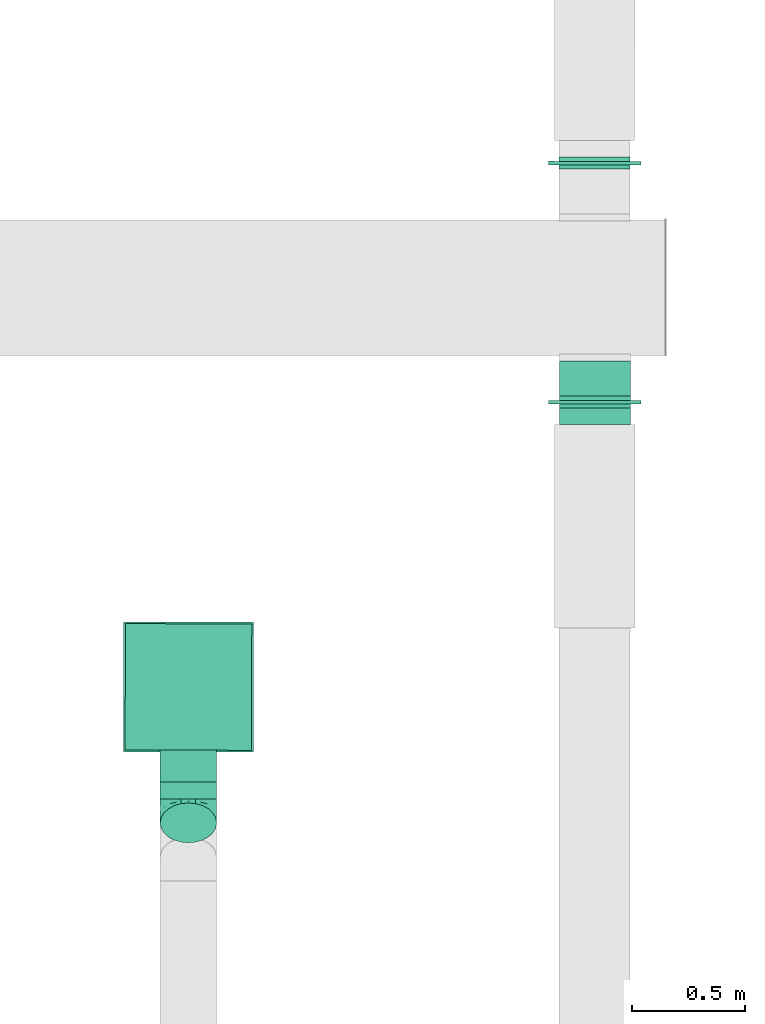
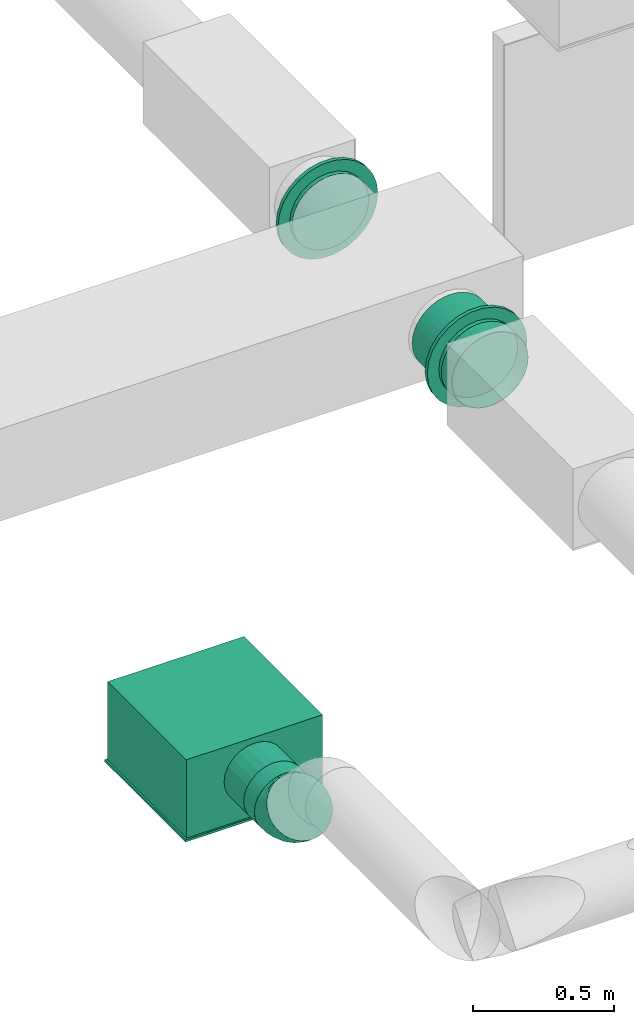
# One storey, part 30 of 63: 3 flow segments, 2 flow controllers, 1 flow fitting, 1 flow terminal.
"""IFC2X3 building model written with IfcOpenShell, lengths in millimetres."""

from ifc_helpers import new_model, entity, si_unit, converted_unit, derived_unit, direction, frame, origin_with_axes, origin_2d_with_axis, place, context, subcontext, project, spatial, hollow_circle, extrude, open_shell, surface_model, source, transform, mapped, type_object, element, save


model = new_model("IFC2X3")

# Units and contexts
model_context = context("Model", 3, precision=0.01, world=frame((0.0, 4.29681676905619e-09, 0.0)), true_north=direction((4.01073788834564e-13, 1.0)))
plan_context = context("Plan", 3, precision=0.01, world=frame((0.0, 4.29681676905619e-09, 0.0)), true_north=direction((4.01073788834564e-13, 1.0)))
body_context = subcontext(model_context, "Body", "Model", "MODEL_VIEW")
ifc_project = project(units=[converted_unit("PLANEANGLEUNIT", "DEGREE", entity("IfcPositiveLengthMeasure", 0.0174532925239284), si_unit("PLANEANGLEUNIT", "RADIAN"), dimensions=[0, 0, 0, 0, 0, 0, 0]), si_unit("AREAUNIT", "SQUARE_METRE"), si_unit("LENGTHUNIT", "METRE", prefix="MILLI"), si_unit("MASSUNIT", "GRAM", prefix="KILO"), si_unit("POWERUNIT", "WATT"), si_unit("PRESSUREUNIT", "PASCAL"), si_unit("FORCEUNIT", "NEWTON", prefix="KILO"), si_unit("ELECTRICVOLTAGEUNIT", "VOLT"), si_unit("ELECTRICCURRENTUNIT", "AMPERE"), si_unit("THERMODYNAMICTEMPERATUREUNIT", "DEGREE_CELSIUS"), si_unit("TIMEUNIT", "SECOND"), si_unit("VOLUMEUNIT", "CUBIC_METRE"), derived_unit("LINEARVELOCITYUNIT", [(si_unit("LENGTHUNIT", "METRE"), 1), (si_unit("TIMEUNIT", "SECOND"), -1)]), derived_unit("VOLUMETRICFLOWRATEUNIT", [(si_unit("VOLUMEUNIT", "CUBIC_METRE"), 1), (si_unit("TIMEUNIT", "SECOND"), -1)]), derived_unit("THERMALTRANSMITTANCEUNIT", [(si_unit("POWERUNIT", "WATT"), 1), (si_unit("THERMODYNAMICTEMPERATUREUNIT", "KELVIN"), -1), (si_unit("AREAUNIT", "SQUARE_METRE"), -1)]), derived_unit("SOUNDPRESSUREUNIT", [(si_unit("PRESSUREUNIT", "PASCAL"), 1)])], contexts=[model_context, plan_context])

# Site, building, storey
site_placement = place(None, frame((0.0, -4.29681676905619e-09, 0.0), z_axis=(0.0, 0.0, 1.0), x_axis=(1.0, 0.0, 0.0)))
site = spatial("IfcSite", under=ifc_project, at=site_placement, CompositionType="ELEMENT")
building_placement = place(site_placement, frame((0.0, 4.29681676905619e-09, 0.0), z_axis=(0.0, 0.0, 1.0), x_axis=(1.0, 0.0, 0.0)))
building = spatial("IfcBuilding", under=site, at=building_placement, Name="mc-building", CompositionType="ELEMENT")
storey_placement = place(building_placement, frame((0.0, 0.0, 210900.0), z_axis=(0.0, 0.0, 1.0), x_axis=(1.0, 0.0, 0.0)))
storey = spatial("IfcBuildingStorey", under=building, at=storey_placement, Name="Nivå F", CompositionType="ELEMENT", Elevation=210900.0)

# Flow controllers
damper_type = type_object("IfcDamperType", Name="IRIS-031", PredefinedType="BALANCINGDAMPER")
shared_shape_1 = source(origin_with_axes(), body_context, "Body", "SurfaceModel", [
    surface_model("IfcShellBasedSurfaceModel", [(26.0, 78.75, -136.39901), (26.0, 0.0, -157.5), (26.0, 40.764, -152.13332), (26.0, 111.36932, -111.36932), (26.0, -111.36932, -111.36932), (26.0, 152.13332, 40.764), (26.0, 152.13332, -40.764), (26.0, 136.39901, -78.75), (26.0, -78.75, -136.39901), (26.0, -40.764, -152.13332), (26.0, -152.13332, -40.764), (26.0, -136.39901, -78.75), (26.0, 0.0, 157.5), (26.0, 157.5, 0.0), (26.0, 136.39901, 78.75), (26.0, 111.36932, 111.36932), (26.0, 78.75, 136.39901), (26.0, 40.764, 152.13332), (26.0, -40.764, 152.13332), (26.0, -152.13332, 40.764), (26.0, -136.39901, 78.75), (26.0, -157.5, 0.0), (26.0, -78.75, 136.39901), (26.0, -111.36932, 111.36932), (7.8, 0.0, 157.5), (7.8, 40.764, 152.13332), (7.8, 78.75, 136.39901), (7.8, 152.13332, 40.764), (7.8, 111.36932, 111.36932), (7.8, 136.39901, 78.75), (7.8, -152.13332, 40.764), (7.8, -78.75, 136.39901), (7.8, -136.39901, 78.75), (7.8, -111.36932, 111.36932), (7.8, -40.764, 152.13332), (7.8, -111.36932, -111.36932), (7.8, -157.5, 0.0), (7.8, 152.13332, -40.764), (7.8, 111.36932, -111.36932), (7.8, 136.39901, -78.75), (7.8, -78.75, -136.39901), (7.8, 78.75, -136.39901), (7.8, 0.0, -157.5), (7.8, 40.764, -152.13332), (7.8, -136.39901, -78.75), (7.8, -152.13332, -40.764), (7.8, -40.764, -152.13332), (7.8, 157.5, 0.0), (7.8, 116.45328, -168.71169), (7.8, -24.71002, -203.50531), (7.8, 72.694, -191.67833), (7.8, 181.51848, -95.26825), (7.8, 153.4447, -135.94015), (7.8, 199.04307, -49.05971), (7.8, 205.0, 0.0), (7.8, 199.04307, 49.05971), (7.8, -116.45328, 168.71169), (7.8, -181.51848, -95.26825), (7.8, -116.45328, -168.71169), (7.8, -72.694, -191.67833), (7.8, 24.71002, -203.50531), (7.8, -153.4447, -135.94015), (7.8, -205.0, 0.0), (7.8, -199.04307, -49.05971), (7.8, 181.51848, 95.26825), (7.8, 153.4447, 135.94015), (7.8, 116.45328, 168.71169), (7.8, 72.694, 191.67833), (7.8, 24.71002, 203.50531), (7.8, -24.71002, 203.50531), (7.8, -181.51848, 95.26825), (7.8, -199.04307, 49.05971), (7.8, -153.4447, 135.94015), (7.8, -72.694, 191.67833), (-7.8, 24.71002, 203.50531), (-7.8, 72.694, 191.67833), (-7.8, 116.45328, 168.71169), (-7.8, -24.71002, 203.50531), (-7.8, 153.4447, 135.94015), (-7.8, 181.51848, 95.26825), (-7.8, 199.04307, 49.05971), (-7.8, -116.45328, 168.71169), (-7.8, -72.694, 191.67833), (-7.8, -181.51848, 95.26825), (-7.8, -153.4447, 135.94015), (-7.8, -205.0, 0.0), (-7.8, -199.04307, 49.05971), (-7.8, 205.0, 0.0), (-7.8, 199.04307, -49.05971), (-7.8, 181.51848, -95.26825), (-7.8, 116.45328, -168.71169), (-7.8, -116.45328, -168.71169), (-7.8, 153.4447, -135.94015), (-7.8, -24.71002, -203.50531), (-7.8, 72.694, -191.67833), (-7.8, -181.51848, -95.26825), (-7.8, -153.4447, -135.94015), (-7.8, -199.04307, -49.05971), (-7.8, -72.694, -191.67833), (-7.8, 24.71002, -203.50531), (-7.8, 78.75, -136.39901), (-7.8, 0.0, -157.5), (-7.8, 40.764, -152.13332), (-7.8, 111.36932, -111.36932), (-7.8, -111.36932, -111.36932), (-7.8, 152.13332, 40.764), (-7.8, 152.13332, -40.764), (-7.8, 136.39901, -78.75), (-7.8, -78.75, -136.39901), (-7.8, -40.764, -152.13332), (-7.8, -152.13332, -40.764), (-7.8, -136.39901, -78.75), (-7.8, 0.0, 157.5), (-7.8, 157.5, 0.0), (-7.8, 136.39901, 78.75), (-7.8, 111.36932, 111.36932), (-7.8, 78.75, 136.39901), (-7.8, 40.764, 152.13332), (-7.8, -40.764, 152.13332), (-7.8, -152.13332, 40.764), (-7.8, -136.39901, 78.75), (-7.8, -157.5, 0.0), (-7.8, -78.75, 136.39901), (-7.8, -111.36932, 111.36932), (-26.0, 0.0, 157.5), (-26.0, 40.764, 152.13332), (-26.0, 78.75, 136.39901), (-26.0, 152.13332, 40.764), (-26.0, 111.36932, 111.36932), (-26.0, 136.39901, 78.75), (-26.0, -152.13332, 40.764), (-26.0, -78.75, 136.39901), (-26.0, -136.39901, 78.75), (-26.0, -111.36932, 111.36932), (-26.0, -40.764, 152.13332), (-26.0, -111.36932, -111.36932), (-26.0, -157.5, 0.0), (-26.0, 152.13332, -40.764), (-26.0, 111.36932, -111.36932), (-26.0, 136.39901, -78.75), (-26.0, -78.75, -136.39901), (-26.0, 78.75, -136.39901), (-26.0, 0.0, -157.5), (-26.0, 40.764, -152.13332), (-26.0, -136.39901, -78.75), (-26.0, -152.13332, -40.764), (-26.0, -40.764, -152.13332), (-26.0, 157.5, 0.0)], [open_shell([[[0, 1, 2]], [[3, 4, 0]], [[5, 4, 3]], [[6, 3, 7]], [[5, 3, 6]], [[1, 8, 9]], [[1, 0, 8]], [[4, 10, 11]], [[8, 0, 4]], [[4, 12, 10]], [[6, 13, 5]], [[5, 14, 15]], [[5, 15, 16]], [[16, 17, 12]], [[16, 12, 5]], [[12, 18, 10]], [[19, 18, 20]], [[19, 21, 10]], [[20, 22, 23]], [[22, 20, 18]], [[18, 19, 10]], [[4, 5, 12]], [[24, 25, 26]], [[24, 26, 27]], [[28, 29, 27]], [[28, 27, 26]], [[24, 27, 30]], [[31, 32, 33]], [[32, 31, 34]], [[34, 30, 32]], [[34, 24, 30]], [[30, 35, 36]], [[30, 27, 35]], [[27, 37, 35]], [[38, 37, 39]], [[40, 38, 41]], [[37, 38, 40]], [[42, 41, 43]], [[36, 44, 45]], [[35, 44, 36]], [[40, 42, 46]], [[40, 35, 37]], [[42, 40, 41]], [[37, 27, 47]], [[45, 10, 36]], [[44, 11, 45]], [[8, 35, 40]], [[44, 35, 4]], [[9, 40, 46]], [[45, 11, 10]], [[10, 21, 36]], [[9, 8, 40]], [[4, 35, 8]], [[4, 11, 44]], [[1, 9, 46]], [[46, 42, 1]], [[43, 2, 42]], [[41, 0, 43]], [[7, 38, 39]], [[41, 38, 3]], [[6, 39, 37]], [[41, 3, 0]], [[0, 2, 43]], [[13, 6, 37]], [[7, 39, 6]], [[7, 3, 38]], [[47, 13, 37]], [[42, 2, 1]], [[27, 5, 47]], [[29, 14, 27]], [[16, 28, 26]], [[29, 28, 15]], [[17, 26, 25]], [[27, 14, 5]], [[5, 13, 47]], [[17, 16, 26]], [[15, 28, 16]], [[15, 14, 29]], [[12, 17, 25]], [[25, 24, 12]], [[18, 24, 34]], [[20, 32, 30]], [[32, 23, 33]], [[19, 30, 36]], [[34, 22, 18]], [[22, 34, 31]], [[22, 31, 23]], [[31, 33, 23]], [[32, 20, 23]], [[19, 20, 30]], [[36, 21, 19]], [[24, 18, 12]], [[48, 49, 50]], [[51, 48, 52]], [[51, 53, 54]], [[48, 51, 55]], [[56, 57, 48]], [[49, 58, 59]], [[49, 60, 50]], [[61, 58, 57]], [[58, 49, 48]], [[58, 48, 57]], [[57, 62, 63]], [[54, 55, 51]], [[55, 64, 65]], [[55, 65, 66]], [[66, 67, 68]], [[55, 66, 56]], [[69, 66, 68]], [[62, 70, 71]], [[70, 62, 72]], [[73, 56, 66]], [[72, 62, 56]], [[57, 56, 62]], [[69, 73, 66]], [[56, 48, 55]], [[74, 75, 76]], [[77, 74, 76]], [[78, 79, 80]], [[78, 80, 76]], [[81, 76, 80]], [[76, 82, 77]], [[76, 81, 82]], [[83, 84, 85]], [[85, 86, 83]], [[84, 81, 85]], [[80, 85, 81]], [[80, 87, 85]], [[87, 88, 89]], [[87, 89, 90]], [[87, 90, 91]], [[90, 89, 92]], [[93, 90, 94]], [[95, 91, 96]], [[97, 85, 95]], [[91, 95, 87]], [[98, 91, 93]], [[90, 93, 91]], [[99, 93, 94]], [[95, 85, 87]], [[97, 63, 85]], [[95, 57, 97]], [[58, 96, 91]], [[91, 98, 59]], [[95, 96, 61]], [[93, 49, 98]], [[97, 57, 63]], [[63, 62, 85]], [[59, 58, 91]], [[61, 96, 58]], [[61, 57, 95]], [[49, 59, 98]], [[93, 60, 49]], [[94, 50, 99]], [[90, 48, 94]], [[89, 88, 51]], [[90, 92, 52]], [[88, 87, 53]], [[92, 89, 52]], [[94, 48, 50]], [[50, 60, 99]], [[51, 52, 89]], [[53, 51, 88]], [[87, 54, 53]], [[52, 48, 90]], [[99, 60, 93]], [[80, 55, 87]], [[79, 64, 80]], [[66, 78, 76]], [[76, 75, 67]], [[79, 78, 65]], [[74, 68, 75]], [[80, 64, 55]], [[55, 54, 87]], [[67, 66, 76]], [[65, 78, 66]], [[65, 64, 79]], [[68, 67, 75]], [[74, 69, 68]], [[73, 82, 81]], [[77, 82, 69]], [[83, 86, 70]], [[72, 84, 83]], [[56, 81, 84]], [[71, 86, 85]], [[73, 69, 82]], [[73, 81, 56]], [[56, 84, 72]], [[83, 70, 72]], [[71, 70, 86]], [[62, 71, 85]], [[77, 69, 74]], [[100, 101, 102]], [[103, 104, 100]], [[105, 104, 103]], [[106, 103, 107]], [[105, 103, 106]], [[101, 108, 109]], [[101, 100, 108]], [[104, 110, 111]], [[108, 100, 104]], [[104, 112, 110]], [[106, 113, 105]], [[105, 114, 115]], [[105, 115, 116]], [[116, 117, 112]], [[116, 112, 105]], [[112, 118, 110]], [[119, 118, 120]], [[119, 121, 110]], [[120, 122, 123]], [[122, 120, 118]], [[118, 119, 110]], [[104, 105, 112]], [[124, 125, 126]], [[124, 126, 127]], [[128, 129, 127]], [[128, 127, 126]], [[124, 127, 130]], [[131, 132, 133]], [[132, 131, 134]], [[134, 130, 132]], [[134, 124, 130]], [[130, 135, 136]], [[130, 127, 135]], [[127, 137, 135]], [[138, 137, 139]], [[140, 138, 141]], [[137, 138, 140]], [[142, 141, 143]], [[136, 144, 145]], [[135, 144, 136]], [[140, 142, 146]], [[140, 135, 137]], [[142, 140, 141]], [[137, 127, 147]], [[145, 110, 136]], [[144, 111, 145]], [[108, 135, 140]], [[144, 135, 104]], [[109, 140, 146]], [[145, 111, 110]], [[110, 121, 136]], [[109, 108, 140]], [[104, 135, 108]], [[104, 111, 144]], [[101, 109, 146]], [[146, 142, 101]], [[143, 102, 142]], [[141, 100, 143]], [[107, 138, 139]], [[141, 138, 103]], [[106, 139, 137]], [[141, 103, 100]], [[100, 102, 143]], [[113, 106, 137]], [[107, 139, 106]], [[107, 103, 138]], [[147, 113, 137]], [[142, 102, 101]], [[127, 105, 147]], [[129, 114, 127]], [[116, 128, 126]], [[129, 128, 115]], [[117, 126, 125]], [[127, 114, 105]], [[105, 113, 147]], [[117, 116, 126]], [[115, 128, 116]], [[115, 114, 129]], [[112, 117, 125]], [[125, 124, 112]], [[118, 124, 134]], [[120, 132, 130]], [[132, 123, 133]], [[119, 130, 136]], [[134, 122, 118]], [[122, 134, 131]], [[122, 131, 123]], [[131, 133, 123]], [[132, 120, 123]], [[119, 120, 130]], [[136, 121, 119]], [[124, 118, 112]]])]),
])
for number, where, z_axis, x_axis, name in (
    (1, (532305.32839, 455662.25549, 4200.0), (0.0, 0.0, 1.0), (0.000647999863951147, 0.999999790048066, 0.0), "IRIS-031"),
    (2, (532304.16118, 456720.6534, 4200.0), (0.0, 0.0, 1.0), (-0.000647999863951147, -0.999999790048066, 0.0), "IRIS-031"),
):
    element("IfcFlowController", number, at=place(storey_placement, frame(where, z_axis=z_axis, x_axis=x_axis)), inside=storey, type_object=damper_type, Name=name, context=body_context, shape_type="MappedRepresentation", body=[
        mapped(shared_shape_1, transform((0.0, 0.0, 0.0), scale=1.0)),
    ])

# Flow fitting
duct_fitting_type = type_object("IfcDuctFittingType", Name="magicirc_elbow_short_001", PredefinedType="BEND")
shared_shape_2 = source(origin_with_axes(), body_context, "Body", "SurfaceModel", [
    surface_model("IfcShellBasedSurfaceModel", [(-62.13204, 0.0, -125.0), (-62.13204, -32.35238, -120.74073), (-62.13204, 32.35238, -120.74073), (-62.13204, 62.5, -108.25318), (-62.13204, 88.38835, -88.38835), (-62.13204, 108.25318, -62.5), (-62.13204, 120.74073, -32.35238), (-62.13204, -62.5, -108.25318), (-62.13204, -88.38835, -88.38835), (-62.13204, -125.0, 0.0), (-62.13204, -108.25318, -62.5), (-62.13204, -120.74073, -32.35238), (-62.13204, 125.0, 0.0), (-62.13204, -120.74073, 32.35238), (-62.13204, 120.74073, 32.35238), (-62.13204, 108.25318, 62.5), (-62.13204, 32.35238, 120.74073), (-62.13204, 62.5, 108.25318), (-62.13204, 88.38835, 88.38835), (-62.13204, -88.38835, 88.38835), (-62.13204, -108.25318, 62.5), (-62.13204, -32.35238, 120.74073), (-62.13204, 0.0, 125.0), (-62.13204, -62.5, 108.25318), (-32.61257, 120.48054, -62.5), (-41.44261, 129.31057, -32.35238), (-44.45436, 132.32233, 0.0), (-41.44261, 129.31057, 32.35238), (-32.61257, 120.48054, 62.5), (-39.32094, -100.77129, 72.52866), (-25.3983, -115.58366, 40.92131), (-9.38975, -99.61313, 67.6303), (-40.71594, 99.20513, 81.38635), (-18.56602, 106.43398, 88.38835), (6.93461, -16.74165, 121.22697), (-29.92798, -19.88945, 122.8817), (-17.69423, -50.99343, 111.83063), (-28.63512, 12.8945, 124.68547), (-43.55871, 45.16564, 117.17454), (-19.1971, 46.34588, 119.14586), (20.11216, -107.05726, 35.36285), (37.22525, -89.79474, 60.1728), (-42.64489, 65.81413, 107.6176), (18.18237, -43.89615, 109.72868), (-48.14682, 116.23669, 52.46898), (11.13029, 29.36587, 124.68547), (-8.4822, -119.71595, 0.0), (17.31186, -111.89141, 0.0), (-27.44697, 77.92943, 103.54984), (-1.13628, 62.73759, 117.17454), (-0.26019, 88.12816, 108.25318), (29.58221, -71.41779, 87.09722), (2.27359, -83.55864, 84.32151), (46.20365, -49.09439, 98.73245), (43.10591, -104.06687, 0.0), (-28.63512, 12.89449, -124.68547), (-29.92797, -19.88945, -122.8817), (11.13029, 29.36586, -124.68547), (-19.1971, 46.34588, -119.14586), (-43.55871, 45.16564, -117.17454), (-35.69649, 74.51237, -103.54983), (-25.3983, -115.58366, -40.92131), (-48.14682, 116.23669, -52.46898), (-39.32094, -100.77129, -72.52866), (-16.38313, 76.69211, -107.6176), (-18.56602, 106.43398, -88.38835), (-0.26019, 88.12816, -108.25318), (-17.69423, -50.99343, -111.83063), (6.93461, -16.74165, -121.22697), (-1.13628, 62.73759, -117.17454), (48.5695, -23.54609, -111.83063), (35.22623, 7.0983, -122.8817), (-9.38975, -99.61313, -67.63031), (2.04406, -67.38589, -98.73245), (29.58221, -71.41778, -87.09723), (43.93399, 43.934, -125.0), (106.43399, -18.56599, 88.38835), (132.32235, -44.45434, 0.0), (21.05739, 66.81058, -120.74073), (88.12817, -0.26017, 108.25318), (66.81057, 21.05741, -120.74073), (106.43399, -18.56599, -88.38835), (88.12817, -0.26017, -108.25318), (129.31058, -41.44258, -32.35238), (120.48055, -32.61255, -62.5), (21.05739, 66.81058, 120.74073), (43.93399, 43.934, 125.0), (129.31058, -41.44258, 32.35238), (120.48055, -32.61255, 62.5), (66.81057, 21.05741, 120.74073), (-31.08246, -121.94188, 0.0), (35.22622, 7.09831, 122.8817), (-25.98217, -78.69805, 94.74512), (-3.43913, -67.17105, 100.02812), (77.07669, -63.79755, 67.6303), (61.9235, -89.5906, 35.66991), (-52.56496, 126.90301, 0.0), (99.68931, -63.77067, 40.92131), (48.5695, -23.54609, 111.83062), (99.06018, -43.45194, 72.52866), (74.0201, -37.27574, 94.74512), (108.20455, -64.2473, 0.0), (90.64979, -78.65413, 0.0), (66.87785, -91.36049, 0.0), (19.56361, -107.13664, -35.66991), (-41.35812, 98.93914, -81.38635), (-25.98217, -78.69805, -94.74512), (61.47949, -89.92235, -35.36285), (18.18239, -43.89616, -109.72867), (57.47721, -60.69254, -84.32152), (74.02009, -37.27574, -94.74513), (77.07669, -63.79755, -67.6303), (37.17223, -89.81669, -60.17279), (99.68931, -63.77066, -40.92131), (99.06018, -43.45194, -72.52866), (49.92893, -45.06527, -100.02812)], [open_shell([[[0, 1, 2]], [[3, 2, 4]], [[1, 5, 2]], [[4, 2, 5]], [[5, 1, 6]], [[7, 8, 1]], [[9, 1, 8]], [[10, 11, 8]], [[9, 8, 11]], [[9, 6, 1]], [[9, 12, 6]], [[12, 13, 14]], [[15, 14, 16]], [[16, 17, 18]], [[15, 16, 18]], [[16, 14, 19]], [[20, 19, 13]], [[19, 14, 13]], [[21, 22, 23]], [[19, 23, 22]], [[19, 22, 16]], [[9, 13, 12]], [[24, 25, 26]], [[26, 27, 28]], [[29, 30, 31]], [[32, 33, 28]], [[30, 20, 13]], [[34, 35, 36]], [[21, 35, 22]], [[21, 23, 36]], [[16, 22, 37]], [[38, 37, 39]], [[31, 40, 41]], [[42, 17, 38]], [[38, 17, 16]], [[43, 34, 36]], [[35, 37, 22]], [[14, 15, 44]], [[42, 32, 18]], [[29, 19, 20]], [[40, 31, 30]], [[37, 45, 39]], [[45, 37, 34]], [[40, 46, 47]], [[42, 18, 17]], [[33, 32, 48]], [[27, 44, 28]], [[48, 39, 49]], [[33, 48, 50]], [[44, 32, 28]], [[18, 32, 15]], [[36, 35, 21]], [[37, 35, 34]], [[41, 51, 52]], [[14, 44, 27]], [[32, 44, 15]], [[37, 38, 16]], [[42, 39, 48]], [[39, 42, 38]], [[42, 48, 32]], [[48, 49, 50]], [[45, 49, 39]], [[30, 29, 20]], [[53, 43, 51]], [[46, 40, 30]], [[47, 54, 40]], [[41, 52, 31]], [[0, 2, 55]], [[56, 1, 0]], [[57, 55, 58]], [[59, 60, 58]], [[10, 61, 11]], [[3, 4, 60]], [[62, 6, 25]], [[61, 10, 63]], [[64, 65, 66]], [[1, 56, 67]], [[8, 63, 10]], [[7, 1, 67]], [[56, 55, 68]], [[25, 24, 62]], [[69, 64, 66]], [[2, 3, 59]], [[59, 55, 2]], [[69, 57, 58]], [[70, 68, 71]], [[55, 57, 68]], [[55, 56, 0]], [[67, 56, 68]], [[57, 71, 68]], [[6, 62, 5]], [[60, 59, 3]], [[55, 59, 58]], [[64, 58, 60]], [[58, 64, 69]], [[61, 63, 72]], [[72, 73, 74]], [[75, 76, 77]], [[66, 26, 78]], [[78, 79, 75]], [[24, 66, 65]], [[66, 24, 26]], [[80, 81, 82]], [[80, 75, 81]], [[81, 83, 84]], [[83, 81, 77]], [[75, 77, 81]], [[26, 28, 50]], [[50, 85, 26]], [[50, 28, 33]], [[26, 85, 86]], [[87, 76, 88]], [[77, 76, 87]], [[79, 86, 89]], [[76, 75, 79]], [[86, 79, 26]], [[78, 26, 79]], [[90, 46, 30]], [[91, 45, 34]], [[23, 92, 36]], [[52, 93, 92]], [[94, 41, 95]], [[23, 19, 92]], [[96, 14, 27]], [[40, 95, 41]], [[96, 12, 14]], [[94, 95, 97]], [[40, 54, 95]], [[98, 89, 91]], [[99, 88, 76]], [[89, 98, 79]], [[88, 99, 97]], [[88, 97, 87]], [[98, 100, 79]], [[53, 94, 100]], [[97, 101, 87]], [[85, 50, 49]], [[41, 94, 51]], [[30, 13, 90]], [[26, 96, 27]], [[95, 102, 97]], [[95, 54, 103]], [[86, 91, 89]], [[86, 85, 45]], [[45, 85, 49]], [[34, 43, 98]], [[29, 92, 19]], [[79, 100, 76]], [[52, 92, 31]], [[95, 103, 102]], [[53, 100, 98]], [[99, 100, 94]], [[45, 91, 86]], [[98, 91, 34]], [[13, 9, 90]], [[101, 97, 102]], [[101, 77, 87]], [[92, 29, 31]], [[100, 99, 76]], [[97, 99, 94]], [[93, 36, 92]], [[51, 43, 93]], [[51, 93, 52]], [[43, 36, 93]], [[43, 53, 98]], [[94, 53, 51]], [[104, 46, 61]], [[78, 75, 57]], [[4, 105, 60]], [[73, 72, 106]], [[80, 82, 70]], [[61, 90, 11]], [[83, 77, 101]], [[106, 7, 67]], [[107, 102, 103]], [[104, 54, 47]], [[72, 104, 61]], [[106, 8, 7]], [[68, 108, 67]], [[6, 12, 96]], [[109, 110, 111]], [[96, 26, 25]], [[112, 72, 74]], [[113, 83, 101]], [[82, 81, 110]], [[113, 84, 83]], [[64, 105, 65]], [[4, 5, 105]], [[114, 81, 84]], [[110, 109, 115]], [[70, 82, 110]], [[66, 78, 69]], [[75, 80, 71]], [[111, 114, 113]], [[108, 68, 70]], [[113, 101, 102]], [[107, 104, 112]], [[107, 111, 113]], [[111, 107, 112]], [[71, 57, 75]], [[104, 47, 46]], [[96, 25, 6]], [[114, 110, 81]], [[107, 54, 104]], [[73, 106, 67]], [[63, 106, 72]], [[62, 105, 5]], [[65, 105, 24]], [[70, 71, 80]], [[90, 61, 46]], [[90, 9, 11]], [[72, 112, 104]], [[112, 74, 109]], [[105, 62, 24]], [[57, 69, 78]], [[64, 60, 105]], [[113, 114, 84]], [[110, 114, 111]], [[106, 63, 8]], [[115, 70, 110]], [[73, 108, 74]], [[102, 107, 113]], [[103, 54, 107]], [[112, 109, 111]], [[74, 108, 115]], [[74, 115, 109]], [[108, 70, 115]], [[108, 73, 67]]])]),
])
flow_fitting_placement = place(storey_placement, frame((530505.55623, 453842.54179, 3960.01264), z_axis=(-0.999999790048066, 0.000647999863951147, 0.0), x_axis=(-0.000647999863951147, -0.999999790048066, 0.0)))
element("IfcFlowFitting", 3, at=flow_fitting_placement, inside=storey, type_object=duct_fitting_type, Name="magicirc_elbow_short_001", context=body_context, shape_type="MappedRepresentation", body=[
    mapped(shared_shape_2, transform((0.0, 0.0, 0.0), scale=1.0)),
])

# Flow segments
duct_segment_type = type_object("IfcDuctSegmentType", Name="KK002T - Spiro kanaler, Forsinket stål, korte bend", PredefinedType="RIGIDSEGMENT")
shared_shape_3 = source(origin_with_axes(), body_context, "Body", "SweptSolid", [
    extrude(hollow_circle(Radius=125.0, WallThickness=2.0, at=origin_2d_with_axis()), frame((0.0, 0.0, 0.0), z_axis=(1.0, 0.0, 0.0), x_axis=(0.0, 1.0, 0.0)), (0.0, 0.0, 1.0), 75.7),
])
flow_segment_1_placement = place(storey_placement, frame((530505.64552, 453980.3938, 3960.01264), z_axis=(0.0, 0.0, 1.0), x_axis=(-0.000647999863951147, -0.999999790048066, 0.0)))
element("IfcFlowSegment", 4, at=flow_segment_1_placement, inside=storey, type_object=duct_segment_type, Name="KK002T - Spiro kanaler, Forsinket stål, korte bend", context=body_context, shape_type="MappedRepresentation", body=[
    mapped(shared_shape_3, transform((0.0, 0.0, 0.0), scale=1.0)),
])
shared_shape_4 = source(origin_with_axes(), body_context, "Body", "SweptSolid", [
    extrude(hollow_circle(Radius=157.5, WallThickness=2.0, at=origin_2d_with_axis()), frame((0.0, 0.0, 0.0), z_axis=(1.0, 0.0, 0.0), x_axis=(0.0, 1.0, 0.0)), (0.0, 0.0, 1.0), 73.9),
])
flow_segment_2_placement = place(storey_placement, frame((532305.26367, 455562.35378, 4200.0), z_axis=(0.0, 0.0, 1.0), x_axis=(0.000647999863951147, 0.999999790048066, 0.0)))
element("IfcFlowSegment", 5, at=flow_segment_2_placement, inside=storey, type_object=duct_segment_type, Name="KK002T - Spiro kanaler, Forsinket stål, korte bend", context=body_context, shape_type="MappedRepresentation", body=[
    mapped(shared_shape_4, transform((0.0, 0.0, 0.0), scale=1.0)),
])
shared_shape_5 = source(origin_with_axes(), body_context, "Body", "SweptSolid", [
    extrude(hollow_circle(Radius=157.5, WallThickness=2.0, at=origin_2d_with_axis()), frame((0.0, 0.0, 0.0), z_axis=(1.0, 0.0, 0.0), x_axis=(0.0, 1.0, 0.0)), (0.0, 0.0, 1.0), 155.7),
])
flow_segment_3_placement = place(storey_placement, frame((532305.34523, 455688.25548, 4200.0), z_axis=(0.0, 0.0, 1.0), x_axis=(0.0, 1.0, 0.0)))
element("IfcFlowSegment", 6, at=flow_segment_3_placement, inside=storey, type_object=duct_segment_type, Name="KK002T - Spiro kanaler, Forsinket stål, korte bend", context=body_context, shape_type="MappedRepresentation", body=[
    mapped(shared_shape_5, transform((0.0, 0.0, 0.0), scale=1.0)),
])

# Flow terminal
air_terminal_type = type_object("IfcAirTerminalType", Name="NS19-H-S-2-250 - 4-way", PredefinedType="NOTDEFINED")
shared_shape_6 = source(origin_with_axes(), body_context, "Body", "SurfaceModel", [
    surface_model("IfcShellBasedSurfaceModel", [(-287.5, 287.5, 0.0), (-287.5, -287.5, 0.0), (287.5, -287.5, 0.0), (287.5, 287.5, 0.0), (287.5, 287.5, -10.0), (287.5, -287.5, -10.0), (-287.5, -287.5, -10.0), (-287.5, 287.5, -10.0), (-280.0, 280.0, 340.0), (-280.0, -280.0, 340.0), (280.0, -280.0, 340.0), (280.0, 280.0, 340.0), (280.0, 280.0, 0.0), (280.0, -280.0, 0.0), (-280.0, -280.0, 0.0), (-280.0, 280.0, 0.0), (-280.0, 62.5, 81.74683), (-280.0, 88.38835, 101.61165), (-280.0, 62.4, 81.92003), (-280.0, 32.30062, 69.45246), (-280.0, 0.0, 65.2), (-280.0, 32.35238, 69.25927), (-280.0, 0.0, 65.0), (-280.0, 88.24693, 101.75307), (-280.0, 120.74073, 157.64763), (-280.0, 124.8, 189.99999), (-280.0, 120.54755, 157.69939), (-280.0, 125.0, 189.99999), (-280.0, 108.25318, 127.5), (-280.0, 108.07997, 127.6), (-280.0, -32.30062, 69.45246), (-280.0, -32.35238, 69.25927), (-280.0, -62.4, 81.92003), (-280.0, -88.38835, 101.61165), (-280.0, -62.5, 81.74683), (-280.0, -88.24693, 101.75307), (-280.0, -108.07997, 127.6), (-280.0, -108.25318, 127.5), (-280.0, -120.54755, 157.69939), (-280.0, -120.74073, 157.64763), (-280.0, -124.8, 189.99999), (-280.0, -125.0, 189.99999), (-280.0, 120.74073, 222.35238), (-280.0, 120.54755, 222.30062), (-280.0, 108.07997, 252.4), (-280.0, 108.25318, 252.49999), (-280.0, 88.24693, 278.24693), (-280.0, 88.38835, 278.38835), (-280.0, 62.5, 298.25318), (-280.0, 62.4, 298.07997), (-280.0, 32.30062, 310.54754), (-280.0, 32.35238, 310.74073), (-280.0, 0.0, 314.80001), (-280.0, 0.0, 315.0), (-280.0, -108.25318, 252.49999), (-280.0, -108.07997, 252.4), (-280.0, -88.38835, 278.38835), (-280.0, -88.24693, 278.24693), (-280.0, -120.74073, 222.35238), (-280.0, -120.54755, 222.30062), (-280.0, -32.30062, 310.54754), (-280.0, -32.35238, 310.74073), (-280.0, -62.4, 298.07997), (-280.0, -62.5, 298.25318), (-420.00002, 62.5, 298.25318), (-420.00002, 88.38835, 278.38835), (-420.00002, 62.4, 298.07997), (-420.00002, 32.30062, 310.54754), (-420.00002, 0.0, 314.80001), (-420.00002, 32.35238, 310.74073), (-420.00002, 0.0, 315.0), (-420.00002, 88.24693, 278.24693), (-420.00002, 120.74073, 222.35238), (-420.00002, 124.8, 189.99999), (-420.00002, 120.54755, 222.30062), (-420.00002, 125.0, 189.99999), (-420.00002, 108.25318, 252.49999), (-420.00002, 108.07997, 252.4), (-420.00002, -32.30062, 310.54754), (-420.00002, -32.35238, 310.74073), (-420.00002, -62.4, 298.07997), (-420.00002, -88.38835, 278.38835), (-420.00002, -62.5, 298.25318), (-420.00002, -88.24693, 278.24693), (-420.00002, -108.07997, 252.4), (-420.00002, -108.25318, 252.49999), (-420.00002, -120.54755, 222.30062), (-420.00002, -120.74073, 222.35238), (-420.00002, -124.8, 189.99999), (-420.00002, -125.0, 189.99999), (-420.00002, 120.74073, 157.64763), (-420.00002, 120.54755, 157.69939), (-420.00002, 108.07997, 127.6), (-420.00002, 108.25318, 127.5), (-420.00002, 88.24693, 101.75307), (-420.00002, 88.38835, 101.61165), (-420.00002, 62.5, 81.74683), (-420.00002, 62.4, 81.92003), (-420.00002, 32.30062, 69.45246), (-420.00002, 32.35238, 69.25927), (-420.00002, 0.0, 65.2), (-420.00002, 0.0, 65.0), (-420.00002, -108.25318, 127.5), (-420.00002, -108.07997, 127.6), (-420.00002, -88.38835, 101.61165), (-420.00002, -88.24693, 101.75307), (-420.00002, -120.74073, 157.64763), (-420.00002, -120.54755, 157.69939), (-420.00002, -32.30062, 69.45246), (-420.00002, -32.35238, 69.25927), (-420.00002, -62.4, 81.92003), (-420.00002, -62.5, 81.74683)], [open_shell([[[0, 1, 2]], [[2, 3, 0]], [[4, 5, 6]], [[6, 7, 4]], [[2, 1, 6]], [[6, 5, 2]], [[3, 2, 5]], [[5, 4, 3]], [[0, 3, 4]], [[4, 7, 0]], [[1, 0, 7]], [[7, 6, 1]], [[8, 9, 10]], [[10, 11, 8]], [[12, 13, 14]], [[14, 15, 12]], [[10, 9, 14]], [[14, 13, 10]], [[11, 10, 13]], [[13, 12, 11]], [[8, 11, 12]], [[12, 15, 8]], [[9, 8, 15]], [[15, 14, 9]], [[16, 17, 18]], [[16, 18, 19]], [[20, 21, 19]], [[21, 20, 22]], [[19, 21, 16]], [[18, 17, 23]], [[24, 25, 26]], [[25, 24, 27]], [[24, 26, 28]], [[23, 28, 29]], [[28, 23, 17]], [[29, 28, 26]], [[22, 30, 31]], [[31, 30, 32]], [[33, 34, 35]], [[32, 34, 31]], [[32, 35, 34]], [[22, 20, 30]], [[36, 37, 33]], [[37, 36, 38]], [[36, 33, 35]], [[39, 38, 40]], [[38, 39, 37]], [[39, 40, 41]], [[27, 42, 43]], [[43, 42, 44]], [[44, 45, 46]], [[45, 44, 42]], [[46, 45, 47]], [[47, 48, 49]], [[49, 48, 50]], [[50, 51, 52]], [[51, 50, 48]], [[52, 51, 53]], [[49, 46, 47]], [[54, 55, 56]], [[56, 55, 57]], [[55, 54, 58]], [[41, 59, 58]], [[58, 59, 55]], [[41, 40, 59]], [[60, 53, 61]], [[60, 61, 62]], [[57, 63, 56]], [[57, 62, 63]], [[63, 62, 61]], [[52, 53, 60]], [[43, 25, 27]], [[64, 65, 66]], [[64, 66, 67]], [[68, 69, 67]], [[69, 68, 70]], [[67, 69, 64]], [[66, 65, 71]], [[72, 73, 74]], [[73, 72, 75]], [[72, 74, 76]], [[71, 76, 77]], [[76, 71, 65]], [[77, 76, 74]], [[70, 78, 79]], [[79, 78, 80]], [[81, 82, 83]], [[80, 82, 79]], [[80, 83, 82]], [[70, 68, 78]], [[84, 85, 81]], [[85, 84, 86]], [[84, 81, 83]], [[87, 86, 88]], [[86, 87, 85]], [[87, 88, 89]], [[75, 90, 91]], [[91, 90, 92]], [[92, 93, 94]], [[93, 92, 90]], [[94, 93, 95]], [[95, 96, 97]], [[97, 96, 98]], [[98, 99, 100]], [[99, 98, 96]], [[100, 99, 101]], [[97, 94, 95]], [[102, 103, 104]], [[104, 103, 105]], [[103, 102, 106]], [[89, 107, 106]], [[106, 107, 103]], [[89, 88, 107]], [[108, 101, 109]], [[108, 109, 110]], [[105, 111, 104]], [[105, 110, 111]], [[111, 110, 109]], [[100, 101, 108]], [[91, 73, 75]], [[39, 106, 102]], [[104, 37, 102]], [[34, 111, 109]], [[104, 111, 33]], [[31, 109, 101]], [[106, 41, 89]], [[106, 39, 41]], [[102, 37, 39]], [[104, 33, 37]], [[34, 33, 111]], [[109, 31, 34]], [[101, 22, 31]], [[21, 99, 96]], [[95, 16, 96]], [[28, 93, 90]], [[95, 93, 17]], [[24, 90, 75]], [[99, 21, 22]], [[96, 16, 21]], [[95, 17, 16]], [[93, 28, 17]], [[24, 28, 90]], [[75, 27, 24]], [[99, 22, 101]], [[42, 75, 72]], [[45, 72, 76]], [[48, 64, 69]], [[51, 69, 70]], [[72, 45, 42]], [[42, 27, 75]], [[65, 47, 45]], [[47, 65, 48]], [[48, 65, 64]], [[69, 51, 48]], [[65, 45, 76]], [[70, 53, 51]], [[61, 79, 82]], [[81, 63, 82]], [[54, 85, 87]], [[81, 85, 56]], [[58, 87, 89]], [[79, 61, 53]], [[82, 63, 61]], [[81, 56, 63]], [[85, 54, 56]], [[58, 54, 87]], [[89, 41, 58]], [[79, 53, 70]], [[103, 107, 38]], [[103, 36, 105]], [[108, 110, 32]], [[35, 110, 105]], [[100, 108, 30]], [[88, 40, 107]], [[40, 38, 107]], [[38, 36, 103]], [[36, 35, 105]], [[110, 35, 32]], [[32, 30, 108]], [[30, 20, 100]], [[97, 98, 19]], [[97, 18, 94]], [[91, 92, 29]], [[23, 92, 94]], [[73, 91, 26]], [[20, 19, 98]], [[19, 18, 97]], [[18, 23, 94]], [[23, 29, 92]], [[91, 29, 26]], [[26, 25, 73]], [[100, 20, 98]], [[74, 73, 43]], [[77, 74, 44]], [[67, 66, 49]], [[68, 67, 50]], [[43, 44, 74]], [[73, 25, 43]], [[44, 46, 71]], [[49, 71, 46]], [[66, 71, 49]], [[49, 50, 67]], [[77, 44, 71]], [[50, 52, 68]], [[80, 78, 60]], [[80, 62, 83]], [[86, 84, 55]], [[57, 84, 83]], [[88, 86, 59]], [[52, 60, 78]], [[60, 62, 80]], [[62, 57, 83]], [[57, 55, 84]], [[86, 55, 59]], [[59, 40, 88]], [[68, 52, 78]]])]),
])
flow_terminal_placement = place(storey_placement, frame((530505.91759, 454400.42144, 3770.0), z_axis=(0.0, 0.0, 1.0), x_axis=(0.000647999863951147, 0.999999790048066, 0.0)))
element("IfcFlowTerminal", 7, at=flow_terminal_placement, inside=storey, type_object=air_terminal_type, Name="NS19-H-S-2-250 - 4-way", context=body_context, shape_type="MappedRepresentation", body=[
    mapped(shared_shape_6, transform((0.0, 0.0, 0.0), scale=1.0)),
])

save(model, "model.ifc")
